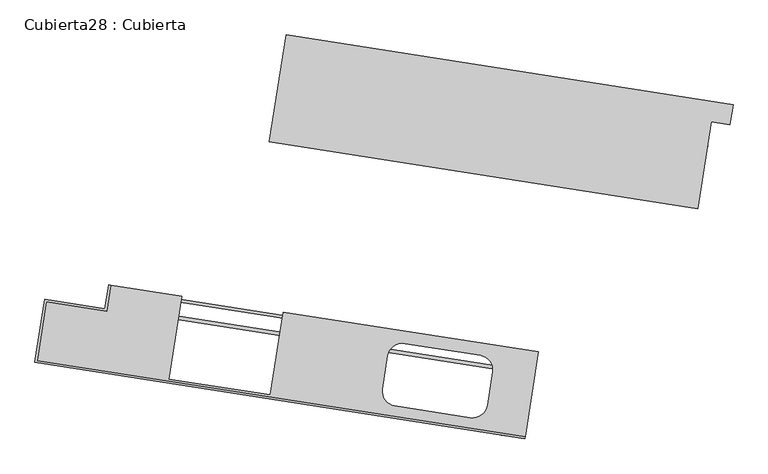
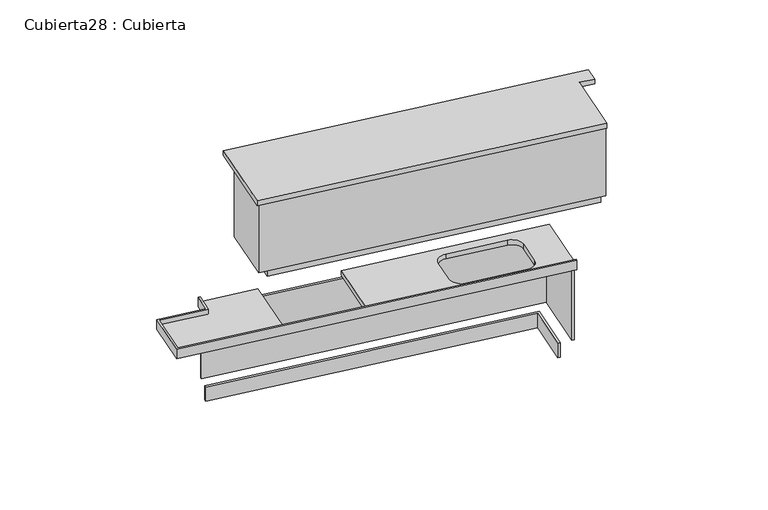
"""IFC4 building model written with IfcOpenShell, lengths in millimetres: furniture geometry, Cubierta28 : Cubierta."""

from ifc_helpers import new_model, si_unit, frame, origin, place, context, project, spatial, polyline, circle_curve, outline, extrude, faceted_brep, source, transform, mapped, element, save
from ifc_brep_helpers import plane_surface, revolved_surface, advanced_brep


def cubierta28_cubierta_b7dfdca9(model_context):
    return source(origin(), model_context, "Body", "SolidModel", [
        extrude(outline(polyline([(-25920.0573826, -68985.2360366), (-28933.6687669, -68515.5059053), (-28883.6155551, -68194.383374), (-25870.0041708, -68664.1135049), (-25873.8544178, -68688.8152376), (-28862.7640694, -68222.9353536), (-28905.1167872, -68494.6544196), (-25916.2071357, -68960.5343039), (-25920.0573826, -68985.2360366)])), frame((0.0, 0.0, 12800.0), z_axis=(0.0, 0.0, 1.0), x_axis=(1.0, 0.0, 0.0)), (0.0, 0.0, 1.0), 150.0),
        extrude(outline(polyline([(-25936.2284199, -69088.9833136), (-25939.3086175, -69108.7446997), (-29076.4286653, -68619.7633339), (-28987.8729837, -68051.6234756), (-25850.752936, -68540.6048418), (-25853.8331336, -68560.3662279), (-28971.1917951, -68074.4650593), (-29053.5870815, -68603.0821454), (-25936.2284199, -69088.9833136)])), frame((0.0, 0.0, 12950.0), z_axis=(0.0, 0.0, 1.0), x_axis=(1.0, 0.0, 0.0)), (0.0, 0.0, 1.0), 720.0),
        extrude(outline(polyline([(-30314.611233, -69843.127663), (-27291.1191556, -70314.3978929), (-27368.1240953, -70808.4325468), (-27392.825828, -70804.5822999), (-27319.6711353, -70335.2493786), (-30318.46148, -69867.8293957), (-30314.611233, -69843.127663)])), frame((0.0, 0.0, 12800.0), z_axis=(0.0, 0.0, 1.0), x_axis=(1.0, 0.0, 0.0)), (0.0, 0.0, 1.0), 150.0),
        extrude(outline(polyline([(-30285.479305, -69721.1590984), (-27148.3592572, -70210.1404644), (-27244.6154318, -70827.6837818), (-27264.3768179, -70824.6035842), (-27171.200841, -70226.8216529), (-30288.5595026, -69740.9204845), (-30285.479305, -69721.1590984)])), frame((0.0, 0.0, 12950.0), z_axis=(0.0, 0.0, 1.0), x_axis=(1.0, 0.0, 0.0)), (0.0, 0.0, 1.0), 720.0),
        advanced_brep(
        [(-27119.8072776, -70189.2889787, 13720.0), (-29002.0793294, -69895.9001554, 13720.0), (-29097.5654545, -70508.5031263, 13720.0), (-29848.4981285, -70391.455618, 13720.0), (-29753.0120033, -69778.8526472, 13720.0), (-30276.6887115, -69697.2274151, 13720.0), (-30306.7206406, -69889.9009476, 13720.0), (-30751.3518416, -69820.5965, 13720.0), (-30819.1161857, -70255.3469779, 13720.0), (-27217.6035509, -70816.7129891, 13720.0), (-27459.7607141, -70338.7155534, 13720.0), (-27498.2631839, -70585.7328804, 13720.0), (-27620.4656569, -70674.9772392, 13720.0), (-28178.7248159, -70587.9616574, 13720.0), (-28267.9691747, -70465.7591844, 13720.0), (-28229.4667049, -70218.7418574, 13720.0), (-28107.2642319, -70129.4974986, 13720.0), (-27549.0050729, -70216.5130804, 13720.0), (-30836.2473736, -70267.8578694, 13670.0), (-30763.862733, -69803.4653122, 13670.0), (-30319.2315321, -69872.7697598, 13670.0), (-30291.5097511, -69694.9172669, 13670.0), (-29753.0120033, -69778.8526472, 13670.0), (-29848.4981285, -70391.455618, 13670.0), (-29097.5654545, -70508.5031263, 13670.0), (-29002.0793294, -69895.9001554, 13670.0), (-27119.8072776, -70189.2889787, 13670.0), (-27219.9136991, -70831.5340288, 13670.0), (-27459.7607141, -70338.7155534, 13670.0), (-27549.0050729, -70216.5130804, 13670.0), (-28107.2642319, -70129.4974986, 13670.0), (-28229.4667049, -70218.7418574, 13670.0), (-28267.9691747, -70465.7591844, 13670.0), (-28178.7248159, -70587.9616574, 13670.0), (-27620.4656569, -70674.9772392, 13670.0), (-27498.2631839, -70585.7328804, 13670.0), (-30291.5097511, -69694.9172669, 13770.0), (-30276.6887115, -69697.2274151, 13770.0), (-30819.1161857, -70255.3469779, 13770.0), (-27217.6035509, -70816.7129891, 13770.0), (-27219.9136991, -70831.5340287, 13770.0), (-30836.2473735, -70267.8578693, 13770.0), (-30319.2315321, -69872.7697598, 13770.0), (-30763.862733, -69803.4653122, 13770.0), (-30751.3518416, -69820.5965, 13770.0), (-30306.7206406, -69889.9009476, 13770.0)],
        [
            (0, 1),
            (1, 2),
            (2, 3),
            (3, 4),
            (4, 5),
            (5, 6),
            (6, 7),
            (7, 8),
            (8, 9),
            (9, 0),
            (10, 11),
            (11, 12, circle_curve(frame((-27603.9865998, -70569.2538233, 13720.0), z_axis=(0.0, 0.0, -1.0), x_axis=(-0.9880693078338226, 0.1540098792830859, 0.0)), 107.0)),
            (12, 13),
            (13, 14, circle_curve(frame((-28162.2457588, -70482.2382415, 13720.0), z_axis=(0.0, 0.0, -1.0), x_axis=(-0.9880693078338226, 0.1540098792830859, 0.0)), 107.0)),
            (14, 15),
            (15, 16, circle_curve(frame((-28123.743289, -70235.2209145, 13720.0), z_axis=(0.0, 0.0, -1.0), x_axis=(-0.9880693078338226, 0.1540098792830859, 0.0)), 107.0)),
            (16, 17),
            (17, 10, circle_curve(frame((-27565.48413, -70322.2364963, 13720.0), z_axis=(0.0, 0.0, -1.0), x_axis=(-0.9880693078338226, 0.1540098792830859, 0.0)), 107.0)),
            (18, 19),
            (19, 20),
            (20, 21),
            (21, 22),
            (22, 23),
            (23, 24),
            (24, 25),
            (25, 26),
            (26, 27),
            (27, 18),
            (28, 29, circle_curve(frame((-27565.48413, -70322.2364963, 13670.0), z_axis=(0.0, 0.0, 1.0), x_axis=(-0.9880693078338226, 0.1540098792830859, 0.0)), 107.0)),
            (29, 30),
            (30, 31, circle_curve(frame((-28123.743289, -70235.2209145, 13670.0), z_axis=(0.0, 0.0, 1.0), x_axis=(-0.9880693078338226, 0.1540098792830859, 0.0)), 107.0)),
            (31, 32),
            (32, 33, circle_curve(frame((-28162.2457588, -70482.2382415, 13670.0), z_axis=(0.0, 0.0, 1.0), x_axis=(-0.9880693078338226, 0.1540098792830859, 0.0)), 107.0)),
            (33, 34),
            (34, 35, circle_curve(frame((-27603.9865998, -70569.2538233, 13670.0), z_axis=(0.0, 0.0, 1.0), x_axis=(-0.9880693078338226, 0.1540098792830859, 0.0)), 107.0)),
            (35, 28),
            (36, 37),
            (37, 5),
            (4, 22),
            (21, 36),
            (8, 38),
            (38, 39),
            (39, 9),
            (27, 40),
            (40, 41),
            (41, 18),
            (39, 40),
            (26, 0),
            (10, 28),
            (35, 11),
            (34, 12),
            (33, 13),
            (32, 14),
            (31, 15),
            (30, 16),
            (29, 17),
            (36, 42),
            (42, 43),
            (43, 41),
            (38, 44),
            (44, 45),
            (45, 37),
            (45, 6),
            (20, 42),
            (25, 1),
            (24, 2),
            (23, 3),
            (44, 7),
            (19, 43),
        ],
        [
            plane_surface(frame((-25704.7227399, -68512.7627656, 13720.0), z_axis=(0.0, 0.0, 1.0000000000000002), x_axis=(0.9880693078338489, -0.1540098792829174, 0.0))),
            plane_surface(frame((-25704.7227399, -68512.7627656, 13670.0), z_axis=(0.0, 0.0, -1.0000000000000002), x_axis=(-0.9880693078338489, 0.1540098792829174, 0.0))),
            plane_surface(frame((-30291.5097511, -69694.9172669, 12820.0), z_axis=(0.154009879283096, 0.9880693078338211, 0.0), x_axis=(0.0, 0.0, 1.0))),
            plane_surface(frame((-30819.1161857, -70255.3469779, 13770.0), z_axis=(0.15400987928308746, 0.9880693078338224, 0.0), x_axis=(0.9880693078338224, -0.15400987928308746, 0.0))),
            plane_surface(frame((-30836.2473735, -70267.8578693, 13720.0), z_axis=(-0.1540098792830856, -0.9880693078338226, 0.0), x_axis=(0.9880693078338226, -0.1540098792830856, 0.0))),
            plane_surface(frame((-27219.9136991, -70831.5340287, 12820.0), z_axis=(0.9880693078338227, -0.15400987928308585, 0.0), x_axis=(0.0, 0.0, 1.0))),
            plane_surface(frame((-27459.7607141, -70338.7155534, 13720.0), z_axis=(-0.9880693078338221, 0.1540098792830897, 0.0), x_axis=(0.0, 0.0, -1.0))),
            revolved_surface(polyline([(-27709.71001573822, -70552.77476621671, 13670.0), (-27709.71001573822, -70552.77476621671, 13720.0)]), (-27603.9865998, -70569.2538233, 12820.0), (0.0, 0.0, -1.0)),
            plane_surface(frame((-27620.4656569, -70674.9772392, 13720.0), z_axis=(0.15400987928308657, 0.9880693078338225, 0.0), x_axis=(0.0, 0.0, -1.0))),
            revolved_surface(polyline([(-28267.96917473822, -70465.75918441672, 13670.0), (-28267.96917473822, -70465.75918441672, 13720.0)]), (-28162.2457588, -70482.2382415, 12820.0), (0.0, 0.0, -1.0)),
            plane_surface(frame((-28267.9691747, -70465.7591844, 13720.0), z_axis=(0.9880693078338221, -0.1540098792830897, 0.0), x_axis=(0.0, 0.0, -1.0))),
            revolved_surface(polyline([(-28229.46670493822, -70218.74185741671, 13670.0), (-28229.46670493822, -70218.74185741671, 13720.0)]), (-28123.743289, -70235.2209145, 12820.0), (0.0, 0.0, -1.0)),
            plane_surface(frame((-28107.2642319, -70129.4974986, 13720.0), z_axis=(-0.15400987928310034, -0.9880693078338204, 0.0), x_axis=(0.0, 0.0, -1.0))),
            revolved_surface(polyline([(-27671.20754593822, -70305.75743921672, 13670.0), (-27671.20754593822, -70305.75743921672, 13720.0)]), (-27565.48413, -70322.2364963, 12820.0), (0.0, 0.0, -1.0)),
            plane_surface(frame((-30291.5097511, -69694.9172669, 13770.0), z_axis=(0.0, 0.0, 1.0), x_axis=(-0.15400987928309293, -0.9880693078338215, 0.0))),
            plane_surface(frame((-30276.6887115, -69697.2274151, 13770.0), z_axis=(0.9880693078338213, -0.1540098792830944, 0.0), x_axis=(-0.1540098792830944, -0.9880693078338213, 0.0))),
            plane_surface(frame((-30291.5097511, -69694.9172669, 13720.0), z_axis=(-0.9880693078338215, 0.15400987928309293, 0.0), x_axis=(-0.15400987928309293, -0.9880693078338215, 0.0))),
            plane_surface(frame((-27119.8072776, -70189.2889787, 13720.0), z_axis=(0.1540098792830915, 0.9880693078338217, 0.0), x_axis=(0.0, 0.0, -1.0))),
            plane_surface(frame((-29002.0793294, -69895.9001554, 13720.0), z_axis=(-0.9880693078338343, 0.15400987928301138, 0.0), x_axis=(0.0, 0.0, -1.0))),
            plane_surface(frame((-29097.5654545, -70508.5031263, 13720.0), z_axis=(0.15400987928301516, 0.9880693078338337, 0.0), x_axis=(0.0, 0.0, -1.0))),
            plane_surface(frame((-29848.4981285, -70391.455618, 13720.0), z_axis=(0.9880693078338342, -0.15400987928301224, 0.0), x_axis=(0.0, 0.0, -1.0))),
            plane_surface(frame((-30306.7206406, -69889.9009476, 13770.0), z_axis=(-0.1540098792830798, -0.9880693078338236, 0.0), x_axis=(-0.9880693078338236, 0.1540098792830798, 0.0))),
            plane_surface(frame((-30319.2315321, -69872.7697598, 13720.0), z_axis=(0.1540098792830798, 0.9880693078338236, 0.0), x_axis=(-0.9880693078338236, 0.1540098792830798, 0.0))),
            plane_surface(frame((-30751.3518416, -69820.5965, 13770.0), z_axis=(0.9880693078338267, -0.15400987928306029, 0.0), x_axis=(-0.15400987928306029, -0.9880693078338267, 0.0))),
            plane_surface(frame((-30763.862733, -69803.4653122, 13720.0), z_axis=(-0.9880693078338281, 0.1540098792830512, 0.0), x_axis=(-0.1540098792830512, -0.9880693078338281, 0.0))),
        ],
        [
            (0, [[1, 2, 3, 4, 5, 6, 7, 8, 9, 10], [11, 12, 13, 14, 15, 16, 17, 18]]),
            (1, [[19, 20, 21, 22, 23, 24, 25, 26, 27, 28], [29, 30, 31, 32, 33, 34, 35, 36]]),
            (2, [[37, 38, -5, 39, -22, 40]]),
            (3, [[41, 42, 43, -9]]),
            (4, [[-28, 44, 45, 46]]),
            (5, [[-43, 47, -44, -27, 48, -10]]),
            (6, [[-11, 49, -36, 50]]),
            (7, [[-12, -50, -35, 51]]),
            (8, [[-13, -51, -34, 52]]),
            (9, [[-14, -52, -33, 53]]),
            (10, [[-15, -53, -32, 54]]),
            (11, [[-16, -54, -31, 55]]),
            (12, [[-17, -55, -30, 56]]),
            (13, [[-18, -56, -29, -49]]),
            (14, [[-37, 57, 58, 59, -45, -47, -42, 60, 61, 62]]),
            (15, [[-38, -62, 63, -6]]),
            (16, [[-40, -21, 64, -57]]),
            (17, [[-1, -48, -26, 65]]),
            (18, [[-2, -65, -25, 66]]),
            (19, [[-3, -66, -24, 67]]),
            (20, [[-4, -67, -23, -39]]),
            (21, [[-61, 68, -7, -63]]),
            (22, [[-58, -64, -20, 69]]),
            (23, [[-41, -8, -68, -60]]),
            (24, [[-46, -59, -69, -19]]),
        ],
    ),
        faceted_brep([(-25843.052443, -68491.2013825, 13720.0), (-25704.7227399, -68512.7627656, 13720.0), (-25681.621258, -68364.5523695, 13720.0), (-28981.7727415, -67850.1593734, 13720.0), (-29104.9806449, -68640.6148196, 13720.0), (-25943.1588645, -69133.4464326, 13720.0), (-25843.052443, -68491.2013825, 13670.0), (-25943.1588645, -69133.4464326, 13670.0), (-29104.9806449, -68640.6148196, 13670.0), (-28981.7727415, -67850.1593734, 13670.0), (-25681.621258, -68364.5523695, 13670.0), (-25704.7227399, -68512.7627656, 13670.0)], [[[0, 1, 2, 3, 4, 5]], [[6, 7, 8, 9, 10, 11]], [[3, 2, 10, 9]], [[5, 4, 8, 7]], [[0, 5, 7, 6]], [[4, 3, 9, 8]], [[1, 0, 6, 11]], [[2, 1, 11, 10]]]),
    ])


if __name__ == "__main__":
    model = new_model("IFC4")
    model_context = context("Model", 3, world=origin())
    ifc_project = project(units=[si_unit("LENGTHUNIT", "METRE", prefix="MILLI")], contexts=[model_context])
    site = spatial("IfcSite", under=ifc_project)
    building = spatial("IfcBuilding", under=site)
    placement = place(None, origin())
    cubierta28_cubierta_shape = cubierta28_cubierta_b7dfdca9(model_context)
    element("IfcFurniture", 1, ObjectType="Cubierta28 : Cubierta", at=placement, inside=building, context=model_context, shape_type="MappedRepresentation", body=[
        mapped(cubierta28_cubierta_shape, transform((0.0, 0.0, 0.0), x_axis=(1.0, 0.0, 0.0), y_axis=(0.0, 1.0, 0.0), z_axis=(0.0, 0.0, 1.0))),
    ])
    save(model, "model.ifc")
